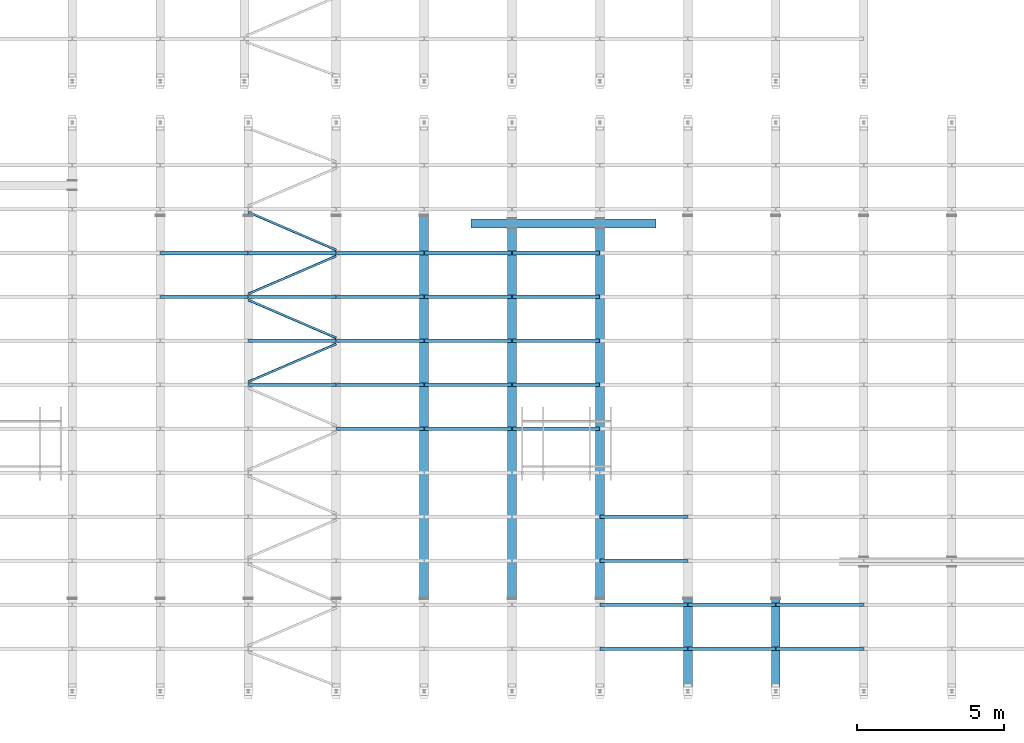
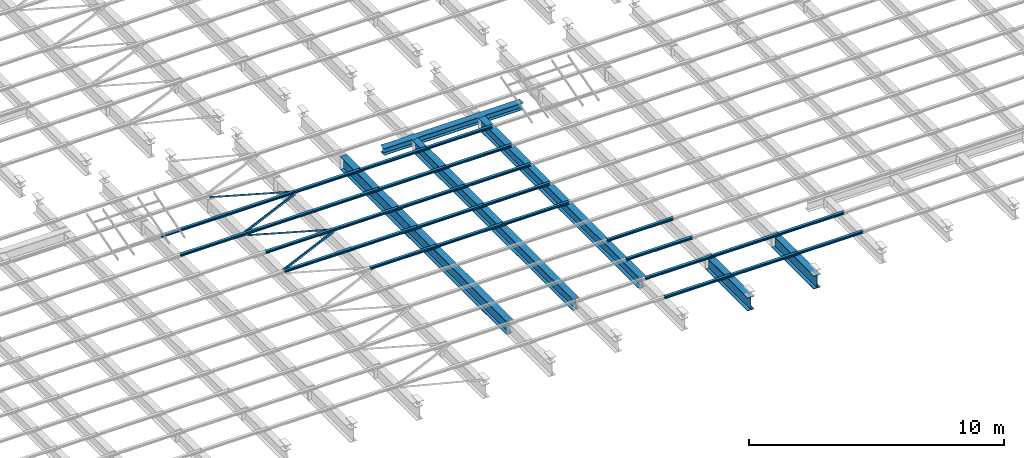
# One storey, part 45 of 139: 39 beams.
"""IFC2X3 building model written with IfcOpenShell, lengths in metres."""

from ifc_helpers import new_model, entity, si_unit, converted_unit, derived_unit, frame, origin, place, context, subcontext, project, spatial, polyline, outline, extrude, material, element, save


model = new_model("IFC2X3")

# Units and contexts
model_context = context("Model", 3, precision=1e-05, world=origin())
body_context = subcontext(model_context, "Body", "Model", "MODEL_VIEW")
ifc_project = project(units=[si_unit("LENGTHUNIT", "METRE"), si_unit("AREAUNIT", "SQUARE_METRE"), si_unit("VOLUMEUNIT", "CUBIC_METRE"), si_unit("MASSUNIT", "GRAM", prefix="KILO"), converted_unit("PLANEANGLEUNIT", "DEGREE", entity("IfcPlaneAngleMeasure", 0.0174532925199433), si_unit("PLANEANGLEUNIT", "RADIAN"), dimensions=[0, 0, 0, 0, 0, 0, 0]), derived_unit("THERMALTRANSMITTANCEUNIT", [(si_unit("POWERUNIT", "WATT"), 1), (si_unit("THERMODYNAMICTEMPERATUREUNIT", "KELVIN"), -1), (si_unit("LENGTHUNIT", "METRE"), -2)]), derived_unit("VOLUMETRICFLOWRATEUNIT", [(si_unit("LENGTHUNIT", "METRE"), 3), (converted_unit("TIMEUNIT", "hour", entity("IfcTimeMeasure", 3600.0), si_unit("TIMEUNIT", "SECOND"), dimensions=[0, 0, 1, 0, 0, 0, 0]), -1), (si_unit("LENGTHUNIT", "METRE"), -1)])], contexts=[model_context])

# Site, building, storey
site_placement = place(None, origin())
site = spatial("IfcSite", under=ifc_project, at=site_placement, Name="TWP_Speiseverteilzentrum SBW VZ II", CompositionType="ELEMENT")
building_placement = place(site_placement, origin())
building = spatial("IfcBuilding", under=site, at=building_placement, Name="Speiseverteilzentrum SBW VZ II", CompositionType="ELEMENT")
storey_placement = place(building_placement, frame((0.0, 0.0, 7.1307)))
storey = spatial("IfcBuildingStorey", under=building, at=storey_placement, Name="Wartung_FFB", CompositionType="ELEMENT", Elevation=7.1307)

# Beams
ifc_material_1 = material(Name="S235")
beam_1_placement = place(storey_placement, frame((53.6545815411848, 26.649939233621, -0.355), z_axis=(0.0, 0.0, 1.0), x_axis=(-1.22464679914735e-16, -1.0, 0.0)))
element("IfcBeam", 1, at=beam_1_placement, inside=storey, material=ifc_material_1, Name="Stahlträger", context=body_context, shape_type="SweptSolid", body=[
    extrude(outline(polyline([(-0.15, 0.165), (-0.15, 0.1485), (-0.00474999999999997, 0.1485), (-0.00474999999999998, -0.1485), (-0.15, -0.1485), (-0.15, -0.165), (0.15, -0.165), (0.15, -0.1485), (0.00475000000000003, -0.1485), (0.00475000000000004, 0.1485), (0.15, 0.1485), (0.15, 0.165), (-0.15, 0.165)])), frame((0.0, 0.0, 0.0), z_axis=(0.0, 1.0, 0.0), x_axis=(-1.0, 0.0, 0.0)), (0.0, 0.0, 1.0), 6.29994208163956),
])
ifc_material_2 = material(Name="S235")
beam_2_placement = place(storey_placement, frame((52.0500000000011, 26.9020742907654, -0.51), z_axis=(0.0, 0.0, 1.0), x_axis=(-1.0, 0.0, 0.0)))
element("IfcBeam", 2, at=beam_2_placement, inside=storey, material=ifc_material_2, Name="Stahlträger", context=body_context, shape_type="SweptSolid", body=[
    extrude(outline(polyline([(-0.15, 0.32), (-0.15, 0.294), (-0.00675000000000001, 0.294), (-0.00675000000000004, -0.294), (-0.15, -0.294), (-0.15, -0.32), (0.15, -0.32), (0.15, -0.294), (0.00674999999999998, -0.294), (0.00675000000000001, 0.294), (0.15, 0.294), (0.15, 0.32), (-0.15, 0.32)])), frame((0.0, 0.0, 0.0), z_axis=(0.0, 1.0, 0.0), x_axis=(-1.0, 0.0, 0.0)), (0.0, 0.0, 1.0), 13.014),
])
ifc_material_3 = material(Name="S235")
beam_3_placement = place(storey_placement, frame((58.0500000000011, 26.474939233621, -0.46), z_axis=(0.0, 0.0, 1.0), x_axis=(-1.0, 0.0, 0.0)))
element("IfcBeam", 3, at=beam_3_placement, inside=storey, material=ifc_material_3, Name="Stahlträger", context=body_context, shape_type="SweptSolid", body=[
    extrude(outline(polyline([(-0.15, 0.27), (-0.15, 0.246), (-0.0062499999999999, 0.246), (-0.00624999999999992, -0.246), (-0.15, -0.246), (-0.15, -0.27), (0.15, -0.27), (0.15, -0.246), (0.00625000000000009, -0.246), (0.00625000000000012, 0.246), (0.15, 0.246), (0.15, 0.27), (-0.15, 0.27)])), frame((0.0, 0.0, 0.0), z_axis=(0.0, 1.0, 0.0), x_axis=(-1.0, 0.0, 0.0)), (0.0, 0.0, 1.0), 12.5868649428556),
])
ifc_material_4 = material(Name="S235")
beam_4_placement = place(storey_placement, frame((55.0500000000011, 26.474939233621, -0.46), z_axis=(0.0, 0.0, 1.0), x_axis=(-1.0, 0.0, 0.0)))
element("IfcBeam", 4, at=beam_4_placement, inside=storey, material=ifc_material_4, Name="Stahlträger", context=body_context, shape_type="SweptSolid", body=[
    extrude(outline(polyline([(-0.15, 0.27), (-0.15, 0.246), (-0.0062499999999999, 0.246), (-0.00624999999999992, -0.246), (-0.15, -0.246), (-0.15, -0.27), (0.15, -0.27), (0.15, -0.246), (0.00625000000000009, -0.246), (0.00625000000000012, 0.246), (0.15, 0.246), (0.15, 0.27), (-0.15, 0.27)])), frame((0.0, 0.0, 0.0), z_axis=(0.0, 1.0, 0.0), x_axis=(-1.0, 0.0, 0.0)), (0.0, 0.0, 1.0), 12.5868649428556),
])
ifc_material_5 = material(Name="S235")
beam_5_placement = place(storey_placement, frame((61.0500000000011, 13.8380742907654, -0.51), z_axis=(0.0, 0.0, 1.0), x_axis=(-1.0, 0.0, 0.0)))
element("IfcBeam", 5, at=beam_5_placement, inside=storey, material=ifc_material_5, Name="Stahlträger", context=body_context, shape_type="SweptSolid", body=[
    extrude(outline(polyline([(-0.15, 0.32), (-0.15, 0.294), (-0.00675000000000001, 0.294), (-0.00675000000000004, -0.294), (-0.15, -0.294), (-0.15, -0.32), (0.15, -0.32), (0.15, -0.294), (0.00674999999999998, -0.294), (0.00675000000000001, 0.294), (0.15, 0.294), (0.15, 0.32), (-0.15, 0.32)])), frame((0.0, 0.0, 0.0), z_axis=(0.0, 1.0, 0.0), x_axis=(-1.0, 0.0, 0.0)), (0.0, 0.0, 1.0), 3.29792570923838),
])
ifc_material_6 = material(Name="S235")
beam_6_placement = place(storey_placement, frame((64.0500000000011, 13.8380742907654, -0.51), z_axis=(0.0, 0.0, 1.0), x_axis=(-1.0, 0.0, 0.0)))
element("IfcBeam", 6, at=beam_6_placement, inside=storey, material=ifc_material_6, Name="Stahlträger", context=body_context, shape_type="SweptSolid", body=[
    extrude(outline(polyline([(-0.15, 0.32), (-0.15, 0.294), (-0.00675000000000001, 0.294), (-0.00675000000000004, -0.294), (-0.15, -0.294), (-0.15, -0.32), (0.15, -0.32), (0.15, -0.294), (0.00674999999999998, -0.294), (0.00675000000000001, 0.294), (0.15, 0.294), (0.15, 0.32), (-0.15, 0.32)])), frame((0.0, 0.0, 0.0), z_axis=(0.0, 1.0, 0.0), x_axis=(-1.0, 0.0, 0.0)), (0.0, 0.0, 1.0), 3.29792570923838),
])
ifc_material_7 = material(Name="S235")
beam_7_placement = place(storey_placement, frame((43.0600000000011, 25.6450742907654, -0.133), z_axis=(0.0, 0.0, 1.0), x_axis=(0.0, -1.0, 0.0)))
element("IfcBeam", 7, at=beam_7_placement, inside=storey, material=ifc_material_7, Name="Nebenträger", context=body_context, shape_type="SweptSolid", body=[
    extrude(outline(polyline([(-0.06, 0.0570000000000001), (-0.06, 0.0490000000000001), (-0.00249999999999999, 0.0490000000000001), (-0.0025, -0.0489999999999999), (-0.06, -0.0489999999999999), (-0.06, -0.0569999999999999), (0.06, -0.0569999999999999), (0.06, -0.0489999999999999), (0.0025, -0.0489999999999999), (0.00250000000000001, 0.0490000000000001), (0.06, 0.0490000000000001), (0.06, 0.0570000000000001), (-0.06, 0.0570000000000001)])), frame((0.0, 0.0, 0.0), z_axis=(0.0, 1.0, 0.0), x_axis=(-1.0, 0.0, 0.0)), (0.0, 0.0, 1.0), 2.98),
])
ifc_material_8 = material(Name="S235")
beam_8_placement = place(storey_placement, frame((46.0600000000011, 25.6450742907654, -0.133), z_axis=(0.0, 0.0, 1.0), x_axis=(0.0, -1.0, 0.0)))
element("IfcBeam", 8, at=beam_8_placement, inside=storey, material=ifc_material_8, Name="Nebenträger", context=body_context, shape_type="SweptSolid", body=[
    extrude(outline(polyline([(-0.06, 0.0570000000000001), (-0.06, 0.0490000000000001), (-0.00249999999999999, 0.0490000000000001), (-0.0025, -0.0489999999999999), (-0.06, -0.0489999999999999), (-0.06, -0.0569999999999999), (0.06, -0.0569999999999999), (0.06, -0.0489999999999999), (0.0025, -0.0489999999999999), (0.00250000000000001, 0.0490000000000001), (0.06, 0.0490000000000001), (0.06, 0.0570000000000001), (-0.06, 0.0570000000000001)])), frame((0.0, 0.0, 0.0), z_axis=(0.0, 1.0, 0.0), x_axis=(-1.0, 0.0, 0.0)), (0.0, 0.0, 1.0), 2.98),
])
ifc_material_9 = material(Name="S235")
beam_9_placement = place(storey_placement, frame((49.0600000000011, 25.6450742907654, -0.133), z_axis=(0.0, 0.0, 1.0), x_axis=(0.0, -1.0, 0.0)))
element("IfcBeam", 9, at=beam_9_placement, inside=storey, material=ifc_material_9, Name="Nebenträger", context=body_context, shape_type="SweptSolid", body=[
    extrude(outline(polyline([(-0.06, 0.0570000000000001), (-0.06, 0.0490000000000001), (-0.00249999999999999, 0.0490000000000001), (-0.0025, -0.0489999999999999), (-0.06, -0.0489999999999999), (-0.06, -0.0569999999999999), (0.06, -0.0569999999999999), (0.06, -0.0489999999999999), (0.0025, -0.0489999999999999), (0.00250000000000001, 0.0490000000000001), (0.06, 0.0490000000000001), (0.06, 0.0570000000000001), (-0.06, 0.0570000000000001)])), frame((0.0, 0.0, 0.0), z_axis=(0.0, 1.0, 0.0), x_axis=(-1.0, 0.0, 0.0)), (0.0, 0.0, 1.0), 2.98),
])
ifc_material_10 = material(Name="S235")
beam_10_placement = place(storey_placement, frame((52.0600000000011, 25.6450742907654, -0.133), z_axis=(0.0, 0.0, 1.0), x_axis=(0.0, -1.0, 0.0)))
element("IfcBeam", 10, at=beam_10_placement, inside=storey, material=ifc_material_10, Name="Nebenträger", context=body_context, shape_type="SweptSolid", body=[
    extrude(outline(polyline([(-0.06, 0.0570000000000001), (-0.06, 0.0490000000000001), (-0.00249999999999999, 0.0490000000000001), (-0.0025, -0.0489999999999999), (-0.06, -0.0489999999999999), (-0.06, -0.0569999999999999), (0.06, -0.0569999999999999), (0.06, -0.0489999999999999), (0.0025, -0.0489999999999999), (0.00250000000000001, 0.0490000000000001), (0.06, 0.0490000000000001), (0.06, 0.0570000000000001), (-0.06, 0.0570000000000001)])), frame((0.0, 0.0, 0.0), z_axis=(0.0, 1.0, 0.0), x_axis=(-1.0, 0.0, 0.0)), (0.0, 0.0, 1.0), 2.98),
])
ifc_material_11 = material(Name="S235")
beam_11_placement = place(storey_placement, frame((55.0600000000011, 25.6450742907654, -0.133), z_axis=(0.0, 0.0, 1.0), x_axis=(0.0, -1.0, 0.0)))
element("IfcBeam", 11, at=beam_11_placement, inside=storey, material=ifc_material_11, Name="Nebenträger", context=body_context, shape_type="SweptSolid", body=[
    extrude(outline(polyline([(-0.06, 0.0570000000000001), (-0.06, 0.0490000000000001), (-0.00249999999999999, 0.0490000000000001), (-0.0025, -0.0489999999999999), (-0.06, -0.0489999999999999), (-0.06, -0.0569999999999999), (0.06, -0.0569999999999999), (0.06, -0.0489999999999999), (0.0025, -0.0489999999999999), (0.00250000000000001, 0.0490000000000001), (0.06, 0.0490000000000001), (0.06, 0.0570000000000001), (-0.06, 0.0570000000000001)])), frame((0.0, 0.0, 0.0), z_axis=(0.0, 1.0, 0.0), x_axis=(-1.0, 0.0, 0.0)), (0.0, 0.0, 1.0), 2.98),
])
ifc_material_12 = material(Name="S235")
beam_12_placement = place(storey_placement, frame((43.0600000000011, 24.1450742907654, -0.133), z_axis=(0.0, 0.0, 1.0), x_axis=(0.0, -1.0, 0.0)))
element("IfcBeam", 12, at=beam_12_placement, inside=storey, material=ifc_material_12, Name="Nebenträger", context=body_context, shape_type="SweptSolid", body=[
    extrude(outline(polyline([(-0.06, 0.0570000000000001), (-0.06, 0.0490000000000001), (-0.00249999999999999, 0.0490000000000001), (-0.0025, -0.0489999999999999), (-0.06, -0.0489999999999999), (-0.06, -0.0569999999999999), (0.06, -0.0569999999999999), (0.06, -0.0489999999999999), (0.0025, -0.0489999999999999), (0.00250000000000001, 0.0490000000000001), (0.06, 0.0490000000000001), (0.06, 0.0570000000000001), (-0.06, 0.0570000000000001)])), frame((0.0, 0.0, 0.0), z_axis=(0.0, 1.0, 0.0), x_axis=(-1.0, 0.0, 0.0)), (0.0, 0.0, 1.0), 2.98),
])
ifc_material_13 = material(Name="S235")
beam_13_placement = place(storey_placement, frame((46.0600000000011, 24.1450742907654, -0.133), z_axis=(0.0, 0.0, 1.0), x_axis=(0.0, -1.0, 0.0)))
element("IfcBeam", 13, at=beam_13_placement, inside=storey, material=ifc_material_13, Name="Nebenträger", context=body_context, shape_type="SweptSolid", body=[
    extrude(outline(polyline([(-0.06, 0.0570000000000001), (-0.06, 0.0490000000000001), (-0.00249999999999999, 0.0490000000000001), (-0.0025, -0.0489999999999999), (-0.06, -0.0489999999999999), (-0.06, -0.0569999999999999), (0.06, -0.0569999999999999), (0.06, -0.0489999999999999), (0.0025, -0.0489999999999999), (0.00250000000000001, 0.0490000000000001), (0.06, 0.0490000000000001), (0.06, 0.0570000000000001), (-0.06, 0.0570000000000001)])), frame((0.0, 0.0, 0.0), z_axis=(0.0, 1.0, 0.0), x_axis=(-1.0, 0.0, 0.0)), (0.0, 0.0, 1.0), 2.98),
])
ifc_material_14 = material(Name="S235")
beam_14_placement = place(storey_placement, frame((49.0600000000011, 24.1450742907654, -0.133), z_axis=(0.0, 0.0, 1.0), x_axis=(0.0, -1.0, 0.0)))
element("IfcBeam", 14, at=beam_14_placement, inside=storey, material=ifc_material_14, Name="Nebenträger", context=body_context, shape_type="SweptSolid", body=[
    extrude(outline(polyline([(-0.06, 0.0570000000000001), (-0.06, 0.0490000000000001), (-0.00249999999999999, 0.0490000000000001), (-0.0025, -0.0489999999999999), (-0.06, -0.0489999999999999), (-0.06, -0.0569999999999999), (0.06, -0.0569999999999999), (0.06, -0.0489999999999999), (0.0025, -0.0489999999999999), (0.00250000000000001, 0.0490000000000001), (0.06, 0.0490000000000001), (0.06, 0.0570000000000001), (-0.06, 0.0570000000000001)])), frame((0.0, 0.0, 0.0), z_axis=(0.0, 1.0, 0.0), x_axis=(-1.0, 0.0, 0.0)), (0.0, 0.0, 1.0), 2.98),
])
ifc_material_15 = material(Name="S235")
beam_15_placement = place(storey_placement, frame((52.0600000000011, 24.1450742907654, -0.133), z_axis=(0.0, 0.0, 1.0), x_axis=(0.0, -1.0, 0.0)))
element("IfcBeam", 15, at=beam_15_placement, inside=storey, material=ifc_material_15, Name="Nebenträger", context=body_context, shape_type="SweptSolid", body=[
    extrude(outline(polyline([(-0.06, 0.0570000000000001), (-0.06, 0.0490000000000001), (-0.00249999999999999, 0.0490000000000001), (-0.0025, -0.0489999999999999), (-0.06, -0.0489999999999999), (-0.06, -0.0569999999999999), (0.06, -0.0569999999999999), (0.06, -0.0489999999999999), (0.0025, -0.0489999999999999), (0.00250000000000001, 0.0490000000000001), (0.06, 0.0490000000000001), (0.06, 0.0570000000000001), (-0.06, 0.0570000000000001)])), frame((0.0, 0.0, 0.0), z_axis=(0.0, 1.0, 0.0), x_axis=(-1.0, 0.0, 0.0)), (0.0, 0.0, 1.0), 2.98),
])
ifc_material_16 = material(Name="S235")
beam_16_placement = place(storey_placement, frame((55.0600000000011, 24.1450742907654, -0.133), z_axis=(0.0, 0.0, 1.0), x_axis=(0.0, -1.0, 0.0)))
element("IfcBeam", 16, at=beam_16_placement, inside=storey, material=ifc_material_16, Name="Nebenträger", context=body_context, shape_type="SweptSolid", body=[
    extrude(outline(polyline([(-0.06, 0.0570000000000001), (-0.06, 0.0490000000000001), (-0.00249999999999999, 0.0490000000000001), (-0.0025, -0.0489999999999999), (-0.06, -0.0489999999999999), (-0.06, -0.0569999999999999), (0.06, -0.0569999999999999), (0.06, -0.0489999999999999), (0.0025, -0.0489999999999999), (0.00250000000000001, 0.0490000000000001), (0.06, 0.0490000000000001), (0.06, 0.0570000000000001), (-0.06, 0.0570000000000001)])), frame((0.0, 0.0, 0.0), z_axis=(0.0, 1.0, 0.0), x_axis=(-1.0, 0.0, 0.0)), (0.0, 0.0, 1.0), 2.98),
])
ifc_material_17 = material(Name="S235")
beam_17_placement = place(storey_placement, frame((46.0600000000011, 22.6450742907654, -0.133), z_axis=(0.0, 0.0, 1.0), x_axis=(0.0, -1.0, 0.0)))
element("IfcBeam", 17, at=beam_17_placement, inside=storey, material=ifc_material_17, Name="Nebenträger", context=body_context, shape_type="SweptSolid", body=[
    extrude(outline(polyline([(-0.06, 0.0570000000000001), (-0.06, 0.0490000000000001), (-0.00249999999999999, 0.0490000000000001), (-0.0025, -0.0489999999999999), (-0.06, -0.0489999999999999), (-0.06, -0.0569999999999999), (0.06, -0.0569999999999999), (0.06, -0.0489999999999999), (0.0025, -0.0489999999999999), (0.00250000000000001, 0.0490000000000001), (0.06, 0.0490000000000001), (0.06, 0.0570000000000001), (-0.06, 0.0570000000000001)])), frame((0.0, 0.0, 0.0), z_axis=(0.0, 1.0, 0.0), x_axis=(-1.0, 0.0, 0.0)), (0.0, 0.0, 1.0), 2.98),
])
ifc_material_18 = material(Name="S235")
beam_18_placement = place(storey_placement, frame((49.0600000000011, 22.6450742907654, -0.133), z_axis=(0.0, 0.0, 1.0), x_axis=(0.0, -1.0, 0.0)))
element("IfcBeam", 18, at=beam_18_placement, inside=storey, material=ifc_material_18, Name="Nebenträger", context=body_context, shape_type="SweptSolid", body=[
    extrude(outline(polyline([(-0.06, 0.0570000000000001), (-0.06, 0.0490000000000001), (-0.00249999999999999, 0.0490000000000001), (-0.0025, -0.0489999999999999), (-0.06, -0.0489999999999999), (-0.06, -0.0569999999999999), (0.06, -0.0569999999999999), (0.06, -0.0489999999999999), (0.0025, -0.0489999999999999), (0.00250000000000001, 0.0490000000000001), (0.06, 0.0490000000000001), (0.06, 0.0570000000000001), (-0.06, 0.0570000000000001)])), frame((0.0, 0.0, 0.0), z_axis=(0.0, 1.0, 0.0), x_axis=(-1.0, 0.0, 0.0)), (0.0, 0.0, 1.0), 2.98),
])
ifc_material_19 = material(Name="S235")
beam_19_placement = place(storey_placement, frame((52.0600000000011, 22.6450742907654, -0.133), z_axis=(0.0, 0.0, 1.0), x_axis=(0.0, -1.0, 0.0)))
element("IfcBeam", 19, at=beam_19_placement, inside=storey, material=ifc_material_19, Name="Nebenträger", context=body_context, shape_type="SweptSolid", body=[
    extrude(outline(polyline([(-0.06, 0.0570000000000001), (-0.06, 0.0490000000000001), (-0.00249999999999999, 0.0490000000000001), (-0.0025, -0.0489999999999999), (-0.06, -0.0489999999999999), (-0.06, -0.0569999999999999), (0.06, -0.0569999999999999), (0.06, -0.0489999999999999), (0.0025, -0.0489999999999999), (0.00250000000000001, 0.0490000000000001), (0.06, 0.0490000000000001), (0.06, 0.0570000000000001), (-0.06, 0.0570000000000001)])), frame((0.0, 0.0, 0.0), z_axis=(0.0, 1.0, 0.0), x_axis=(-1.0, 0.0, 0.0)), (0.0, 0.0, 1.0), 2.98),
])
ifc_material_20 = material(Name="S235")
beam_20_placement = place(storey_placement, frame((55.0600000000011, 22.6450742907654, -0.133), z_axis=(0.0, 0.0, 1.0), x_axis=(0.0, -1.0, 0.0)))
element("IfcBeam", 20, at=beam_20_placement, inside=storey, material=ifc_material_20, Name="Nebenträger", context=body_context, shape_type="SweptSolid", body=[
    extrude(outline(polyline([(-0.06, 0.0570000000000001), (-0.06, 0.0490000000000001), (-0.00249999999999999, 0.0490000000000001), (-0.0025, -0.0489999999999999), (-0.06, -0.0489999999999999), (-0.06, -0.0569999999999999), (0.06, -0.0569999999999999), (0.06, -0.0489999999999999), (0.0025, -0.0489999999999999), (0.00250000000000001, 0.0490000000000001), (0.06, 0.0490000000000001), (0.06, 0.0570000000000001), (-0.06, 0.0570000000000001)])), frame((0.0, 0.0, 0.0), z_axis=(0.0, 1.0, 0.0), x_axis=(-1.0, 0.0, 0.0)), (0.0, 0.0, 1.0), 2.98),
])
ifc_material_21 = material(Name="S235")
beam_21_placement = place(storey_placement, frame((46.0600000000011, 21.1450742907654, -0.133), z_axis=(0.0, 0.0, 1.0), x_axis=(0.0, -1.0, 0.0)))
element("IfcBeam", 21, at=beam_21_placement, inside=storey, material=ifc_material_21, Name="Nebenträger", context=body_context, shape_type="SweptSolid", body=[
    extrude(outline(polyline([(-0.06, 0.0570000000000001), (-0.06, 0.0490000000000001), (-0.00249999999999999, 0.0490000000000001), (-0.0025, -0.0489999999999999), (-0.06, -0.0489999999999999), (-0.06, -0.0569999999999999), (0.06, -0.0569999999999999), (0.06, -0.0489999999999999), (0.0025, -0.0489999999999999), (0.00250000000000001, 0.0490000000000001), (0.06, 0.0490000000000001), (0.06, 0.0570000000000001), (-0.06, 0.0570000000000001)])), frame((0.0, 0.0, 0.0), z_axis=(0.0, 1.0, 0.0), x_axis=(-1.0, 0.0, 0.0)), (0.0, 0.0, 1.0), 2.98),
])
ifc_material_22 = material(Name="S235")
beam_22_placement = place(storey_placement, frame((49.0600000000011, 21.1450742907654, -0.133), z_axis=(0.0, 0.0, 1.0), x_axis=(0.0, -1.0, 0.0)))
element("IfcBeam", 22, at=beam_22_placement, inside=storey, material=ifc_material_22, Name="Nebenträger", context=body_context, shape_type="SweptSolid", body=[
    extrude(outline(polyline([(-0.06, 0.0570000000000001), (-0.06, 0.0490000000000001), (-0.00249999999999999, 0.0490000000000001), (-0.0025, -0.0489999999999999), (-0.06, -0.0489999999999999), (-0.06, -0.0569999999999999), (0.06, -0.0569999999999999), (0.06, -0.0489999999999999), (0.0025, -0.0489999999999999), (0.00250000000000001, 0.0490000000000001), (0.06, 0.0490000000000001), (0.06, 0.0570000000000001), (-0.06, 0.0570000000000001)])), frame((0.0, 0.0, 0.0), z_axis=(0.0, 1.0, 0.0), x_axis=(-1.0, 0.0, 0.0)), (0.0, 0.0, 1.0), 2.98),
])
ifc_material_23 = material(Name="S235")
beam_23_placement = place(storey_placement, frame((52.0600000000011, 21.1450742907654, -0.133), z_axis=(0.0, 0.0, 1.0), x_axis=(0.0, -1.0, 0.0)))
element("IfcBeam", 23, at=beam_23_placement, inside=storey, material=ifc_material_23, Name="Nebenträger", context=body_context, shape_type="SweptSolid", body=[
    extrude(outline(polyline([(-0.06, 0.0570000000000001), (-0.06, 0.0490000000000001), (-0.00249999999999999, 0.0490000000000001), (-0.0025, -0.0489999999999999), (-0.06, -0.0489999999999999), (-0.06, -0.0569999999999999), (0.06, -0.0569999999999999), (0.06, -0.0489999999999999), (0.0025, -0.0489999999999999), (0.00250000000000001, 0.0490000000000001), (0.06, 0.0490000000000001), (0.06, 0.0570000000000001), (-0.06, 0.0570000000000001)])), frame((0.0, 0.0, 0.0), z_axis=(0.0, 1.0, 0.0), x_axis=(-1.0, 0.0, 0.0)), (0.0, 0.0, 1.0), 2.98),
])
ifc_material_24 = material(Name="S235")
beam_24_placement = place(storey_placement, frame((55.0600000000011, 21.1450742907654, -0.133), z_axis=(0.0, 0.0, 1.0), x_axis=(0.0, -1.0, 0.0)))
element("IfcBeam", 24, at=beam_24_placement, inside=storey, material=ifc_material_24, Name="Nebenträger", context=body_context, shape_type="SweptSolid", body=[
    extrude(outline(polyline([(-0.06, 0.0570000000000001), (-0.06, 0.0490000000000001), (-0.00249999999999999, 0.0490000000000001), (-0.0025, -0.0489999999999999), (-0.06, -0.0489999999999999), (-0.06, -0.0569999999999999), (0.06, -0.0569999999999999), (0.06, -0.0489999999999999), (0.0025, -0.0489999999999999), (0.00250000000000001, 0.0490000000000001), (0.06, 0.0490000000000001), (0.06, 0.0570000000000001), (-0.06, 0.0570000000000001)])), frame((0.0, 0.0, 0.0), z_axis=(0.0, 1.0, 0.0), x_axis=(-1.0, 0.0, 0.0)), (0.0, 0.0, 1.0), 2.98),
])
ifc_material_25 = material(Name="S235")
beam_25_placement = place(storey_placement, frame((49.0600000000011, 19.6450742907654, -0.133), z_axis=(0.0, 0.0, 1.0), x_axis=(0.0, -1.0, 0.0)))
element("IfcBeam", 25, at=beam_25_placement, inside=storey, material=ifc_material_25, Name="Nebenträger", context=body_context, shape_type="SweptSolid", body=[
    extrude(outline(polyline([(-0.06, 0.0570000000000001), (-0.06, 0.0490000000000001), (-0.00249999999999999, 0.0490000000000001), (-0.0025, -0.0489999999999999), (-0.06, -0.0489999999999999), (-0.06, -0.0569999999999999), (0.06, -0.0569999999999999), (0.06, -0.0489999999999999), (0.0025, -0.0489999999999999), (0.00250000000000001, 0.0490000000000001), (0.06, 0.0490000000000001), (0.06, 0.0570000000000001), (-0.06, 0.0570000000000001)])), frame((0.0, 0.0, 0.0), z_axis=(0.0, 1.0, 0.0), x_axis=(-1.0, 0.0, 0.0)), (0.0, 0.0, 1.0), 2.98),
])
ifc_material_26 = material(Name="S235")
beam_26_placement = place(storey_placement, frame((52.0600000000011, 19.6450742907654, -0.133), z_axis=(0.0, 0.0, 1.0), x_axis=(0.0, -1.0, 0.0)))
element("IfcBeam", 26, at=beam_26_placement, inside=storey, material=ifc_material_26, Name="Nebenträger", context=body_context, shape_type="SweptSolid", body=[
    extrude(outline(polyline([(-0.06, 0.0570000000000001), (-0.06, 0.0490000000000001), (-0.00249999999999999, 0.0490000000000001), (-0.0025, -0.0489999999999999), (-0.06, -0.0489999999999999), (-0.06, -0.0569999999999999), (0.06, -0.0569999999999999), (0.06, -0.0489999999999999), (0.0025, -0.0489999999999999), (0.00250000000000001, 0.0490000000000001), (0.06, 0.0490000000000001), (0.06, 0.0570000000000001), (-0.06, 0.0570000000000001)])), frame((0.0, 0.0, 0.0), z_axis=(0.0, 1.0, 0.0), x_axis=(-1.0, 0.0, 0.0)), (0.0, 0.0, 1.0), 2.98),
])
ifc_material_27 = material(Name="S235")
beam_27_placement = place(storey_placement, frame((55.0600000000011, 19.6450742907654, -0.133), z_axis=(0.0, 0.0, 1.0), x_axis=(0.0, -1.0, 0.0)))
element("IfcBeam", 27, at=beam_27_placement, inside=storey, material=ifc_material_27, Name="Nebenträger", context=body_context, shape_type="SweptSolid", body=[
    extrude(outline(polyline([(-0.06, 0.0570000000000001), (-0.06, 0.0490000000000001), (-0.00249999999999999, 0.0490000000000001), (-0.0025, -0.0489999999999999), (-0.06, -0.0489999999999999), (-0.06, -0.0569999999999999), (0.06, -0.0569999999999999), (0.06, -0.0489999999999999), (0.0025, -0.0489999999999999), (0.00250000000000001, 0.0490000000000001), (0.06, 0.0490000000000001), (0.06, 0.0570000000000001), (-0.06, 0.0570000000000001)])), frame((0.0, 0.0, 0.0), z_axis=(0.0, 1.0, 0.0), x_axis=(-1.0, 0.0, 0.0)), (0.0, 0.0, 1.0), 2.98),
])
ifc_material_28 = material(Name="S235")
beam_28_placement = place(storey_placement, frame((58.0600000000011, 16.6450742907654, -0.133), z_axis=(0.0, 0.0, 1.0), x_axis=(0.0, -1.0, 0.0)))
element("IfcBeam", 28, at=beam_28_placement, inside=storey, material=ifc_material_28, Name="Nebenträger", context=body_context, shape_type="SweptSolid", body=[
    extrude(outline(polyline([(-0.06, 0.0570000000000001), (-0.06, 0.0490000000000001), (-0.00249999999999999, 0.0490000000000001), (-0.0025, -0.0489999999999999), (-0.06, -0.0489999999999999), (-0.06, -0.0569999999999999), (0.06, -0.0569999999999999), (0.06, -0.0489999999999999), (0.0025, -0.0489999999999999), (0.00250000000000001, 0.0490000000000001), (0.06, 0.0490000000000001), (0.06, 0.0570000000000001), (-0.06, 0.0570000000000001)])), frame((0.0, 0.0, 0.0), z_axis=(0.0, 1.0, 0.0), x_axis=(-1.0, 0.0, 0.0)), (0.0, 0.0, 1.0), 2.98),
])
ifc_material_29 = material(Name="S235")
beam_29_placement = place(storey_placement, frame((58.0600000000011, 15.1450742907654, -0.133), z_axis=(0.0, 0.0, 1.0), x_axis=(0.0, -1.0, 0.0)))
element("IfcBeam", 29, at=beam_29_placement, inside=storey, material=ifc_material_29, Name="Nebenträger", context=body_context, shape_type="SweptSolid", body=[
    extrude(outline(polyline([(-0.06, 0.0570000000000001), (-0.06, 0.0490000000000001), (-0.00249999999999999, 0.0490000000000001), (-0.0025, -0.0489999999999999), (-0.06, -0.0489999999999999), (-0.06, -0.0569999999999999), (0.06, -0.0569999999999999), (0.06, -0.0489999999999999), (0.0025, -0.0489999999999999), (0.00250000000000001, 0.0490000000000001), (0.06, 0.0490000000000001), (0.06, 0.0570000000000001), (-0.06, 0.0570000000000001)])), frame((0.0, 0.0, 0.0), z_axis=(0.0, 1.0, 0.0), x_axis=(-1.0, 0.0, 0.0)), (0.0, 0.0, 1.0), 2.98),
])
ifc_material_30 = material(Name="S235")
beam_30_placement = place(storey_placement, frame((64.0600000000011, 13.6450742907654, -0.133), z_axis=(0.0, 0.0, 1.0), x_axis=(0.0, -1.0, 0.0)))
element("IfcBeam", 30, at=beam_30_placement, inside=storey, material=ifc_material_30, Name="Nebenträger", context=body_context, shape_type="SweptSolid", body=[
    extrude(outline(polyline([(-0.06, 0.0570000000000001), (-0.06, 0.0490000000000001), (-0.00249999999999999, 0.0490000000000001), (-0.0025, -0.0489999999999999), (-0.06, -0.0489999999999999), (-0.06, -0.0569999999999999), (0.06, -0.0569999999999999), (0.06, -0.0489999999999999), (0.0025, -0.0489999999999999), (0.00250000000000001, 0.0490000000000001), (0.06, 0.0490000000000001), (0.06, 0.0570000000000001), (-0.06, 0.0570000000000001)])), frame((0.0, 0.0, 0.0), z_axis=(0.0, 1.0, 0.0), x_axis=(-1.0, 0.0, 0.0)), (0.0, 0.0, 1.0), 2.98000000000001),
])
ifc_material_31 = material(Name="S235")
beam_31_placement = place(storey_placement, frame((58.0600000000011, 13.6450742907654, -0.133), z_axis=(0.0, 0.0, 1.0), x_axis=(0.0, -1.0, 0.0)))
element("IfcBeam", 31, at=beam_31_placement, inside=storey, material=ifc_material_31, Name="Nebenträger", context=body_context, shape_type="SweptSolid", body=[
    extrude(outline(polyline([(-0.06, 0.0570000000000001), (-0.06, 0.0490000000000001), (-0.00249999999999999, 0.0490000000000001), (-0.0025, -0.0489999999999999), (-0.06, -0.0489999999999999), (-0.06, -0.0569999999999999), (0.06, -0.0569999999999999), (0.06, -0.0489999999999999), (0.0025, -0.0489999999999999), (0.00250000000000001, 0.0490000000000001), (0.06, 0.0490000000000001), (0.06, 0.0570000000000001), (-0.06, 0.0570000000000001)])), frame((0.0, 0.0, 0.0), z_axis=(0.0, 1.0, 0.0), x_axis=(-1.0, 0.0, 0.0)), (0.0, 0.0, 1.0), 2.98),
])
ifc_material_32 = material(Name="S235")
beam_32_placement = place(storey_placement, frame((61.0600000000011, 13.6450742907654, -0.133), z_axis=(0.0, 0.0, 1.0), x_axis=(0.0, -1.0, 0.0)))
element("IfcBeam", 32, at=beam_32_placement, inside=storey, material=ifc_material_32, Name="Nebenträger", context=body_context, shape_type="SweptSolid", body=[
    extrude(outline(polyline([(-0.06, 0.0570000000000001), (-0.06, 0.0490000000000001), (-0.00249999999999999, 0.0490000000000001), (-0.0025, -0.0489999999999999), (-0.06, -0.0489999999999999), (-0.06, -0.0569999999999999), (0.06, -0.0569999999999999), (0.06, -0.0489999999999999), (0.0025, -0.0489999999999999), (0.00250000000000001, 0.0490000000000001), (0.06, 0.0490000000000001), (0.06, 0.0570000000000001), (-0.06, 0.0570000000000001)])), frame((0.0, 0.0, 0.0), z_axis=(0.0, 1.0, 0.0), x_axis=(-1.0, 0.0, 0.0)), (0.0, 0.0, 1.0), 2.98),
])
ifc_material_33 = material(Name="S235")
beam_33_placement = place(storey_placement, frame((64.0600000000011, 12.1450742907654, -0.133), z_axis=(0.0, 0.0, 1.0), x_axis=(0.0, -1.0, 0.0)))
element("IfcBeam", 33, at=beam_33_placement, inside=storey, material=ifc_material_33, Name="Nebenträger", context=body_context, shape_type="SweptSolid", body=[
    extrude(outline(polyline([(-0.06, 0.0570000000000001), (-0.06, 0.0490000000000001), (-0.00249999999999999, 0.0490000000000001), (-0.0025, -0.0489999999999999), (-0.06, -0.0489999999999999), (-0.06, -0.0569999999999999), (0.06, -0.0569999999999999), (0.06, -0.0489999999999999), (0.0025, -0.0489999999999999), (0.00250000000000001, 0.0490000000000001), (0.06, 0.0490000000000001), (0.06, 0.0570000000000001), (-0.06, 0.0570000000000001)])), frame((0.0, 0.0, 0.0), z_axis=(0.0, 1.0, 0.0), x_axis=(-1.0, 0.0, 0.0)), (0.0, 0.0, 1.0), 2.98000000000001),
])
ifc_material_34 = material(Name="S235")
beam_34_placement = place(storey_placement, frame((58.0600000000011, 12.1450742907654, -0.133), z_axis=(0.0, 0.0, 1.0), x_axis=(0.0, -1.0, 0.0)))
element("IfcBeam", 34, at=beam_34_placement, inside=storey, material=ifc_material_34, Name="Nebenträger", context=body_context, shape_type="SweptSolid", body=[
    extrude(outline(polyline([(-0.06, 0.0570000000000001), (-0.06, 0.0490000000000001), (-0.00249999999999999, 0.0490000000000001), (-0.0025, -0.0489999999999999), (-0.06, -0.0489999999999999), (-0.06, -0.0569999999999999), (0.06, -0.0569999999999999), (0.06, -0.0489999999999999), (0.0025, -0.0489999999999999), (0.00250000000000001, 0.0490000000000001), (0.06, 0.0490000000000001), (0.06, 0.0570000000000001), (-0.06, 0.0570000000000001)])), frame((0.0, 0.0, 0.0), z_axis=(0.0, 1.0, 0.0), x_axis=(-1.0, 0.0, 0.0)), (0.0, 0.0, 1.0), 2.98),
])
ifc_material_35 = material(Name="S235")
beam_35_placement = place(storey_placement, frame((61.0600000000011, 12.1450742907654, -0.133), z_axis=(0.0, 0.0, 1.0), x_axis=(0.0, -1.0, 0.0)))
element("IfcBeam", 35, at=beam_35_placement, inside=storey, material=ifc_material_35, Name="Nebenträger", context=body_context, shape_type="SweptSolid", body=[
    extrude(outline(polyline([(-0.06, 0.0570000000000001), (-0.06, 0.0490000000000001), (-0.00249999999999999, 0.0490000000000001), (-0.0025, -0.0489999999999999), (-0.06, -0.0489999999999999), (-0.06, -0.0569999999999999), (0.06, -0.0569999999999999), (0.06, -0.0489999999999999), (0.0025, -0.0489999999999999), (0.00250000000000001, 0.0490000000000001), (0.06, 0.0490000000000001), (0.06, 0.0570000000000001), (-0.06, 0.0570000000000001)])), frame((0.0, 0.0, 0.0), z_axis=(0.0, 1.0, 0.0), x_axis=(-1.0, 0.0, 0.0)), (0.0, 0.0, 1.0), 2.98),
])
ifc_material_36 = material(Name="S235")
beam_36_placement = place(storey_placement, frame((46.0406913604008, 21.2634673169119, -0.167052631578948), z_axis=(0.0, 0.0, 1.0), x_axis=(0.395932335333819, -0.91827968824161, 0.0)))
element("IfcBeam", 36, at=beam_36_placement, inside=storey, material=ifc_material_36, Name="Kreuzverband", context=body_context, shape_type="SweptSolid", body=[
    extrude(outline(polyline([(0.0229473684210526, -0.0229473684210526), (0.0229473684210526, 0.0570526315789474), (0.0149473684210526, 0.0570526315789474), (0.0149473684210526, -0.0149473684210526), (-0.0570526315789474, -0.0149473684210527), (-0.0570526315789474, -0.0229473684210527), (0.0229473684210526, -0.0229473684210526)])), frame((0.0, 0.0, 0.0), z_axis=(0.0, 0.999999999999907, 0.0), x_axis=(-1.0, 0.0, 0.0)), (0.0, 0.0, 1.0), 3.27000000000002),
])
ifc_material_37 = material(Name="S235")
beam_37_placement = place(storey_placement, frame((46.0406913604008, 24.0266812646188, -0.167052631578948), z_axis=(0.0, 0.0, 1.0), x_axis=(-0.395932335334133, -0.918279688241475, 0.0)))
element("IfcBeam", 37, at=beam_37_placement, inside=storey, material=ifc_material_37, Name="Kreuzverband", context=body_context, shape_type="SweptSolid", body=[
    extrude(outline(polyline([(0.0570526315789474, -0.0229473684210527), (0.0570526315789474, -0.0149473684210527), (-0.0149473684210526, -0.0149473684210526), (-0.0149473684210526, 0.0570526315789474), (-0.0229473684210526, 0.0570526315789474), (-0.0229473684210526, -0.0229473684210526), (0.0570526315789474, -0.0229473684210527)])), frame((0.0, 0.0, 0.0), z_axis=(0.0, 1.00000000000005, 0.0), x_axis=(-1.0, 0.0, 0.0)), (0.0, 0.0, 1.0), 3.27000000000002),
])
ifc_material_38 = material(Name="S235")
beam_38_placement = place(storey_placement, frame((46.0406913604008, 24.2634673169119, -0.167052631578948), z_axis=(0.0, 0.0, 1.0), x_axis=(0.395932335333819, -0.91827968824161, 0.0)))
element("IfcBeam", 38, at=beam_38_placement, inside=storey, material=ifc_material_38, Name="Kreuzverband", context=body_context, shape_type="SweptSolid", body=[
    extrude(outline(polyline([(0.0229473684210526, -0.0229473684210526), (0.0229473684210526, 0.0570526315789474), (0.0149473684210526, 0.0570526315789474), (0.0149473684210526, -0.0149473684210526), (-0.0570526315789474, -0.0149473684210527), (-0.0570526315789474, -0.0229473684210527), (0.0229473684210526, -0.0229473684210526)])), frame((0.0, 0.0, 0.0), z_axis=(0.0, 0.999999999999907, 0.0), x_axis=(-1.0, 0.0, 0.0)), (0.0, 0.0, 1.0), 3.27000000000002),
])
ifc_material_39 = material(Name="S235")
beam_39_placement = place(storey_placement, frame((46.0406913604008, 27.0266812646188, -0.167052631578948), z_axis=(0.0, 0.0, 1.0), x_axis=(-0.395932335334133, -0.918279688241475, 0.0)))
element("IfcBeam", 39, at=beam_39_placement, inside=storey, material=ifc_material_39, Name="Kreuzverband", context=body_context, shape_type="SweptSolid", body=[
    extrude(outline(polyline([(0.0570526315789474, -0.0229473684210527), (0.0570526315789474, -0.0149473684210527), (-0.0149473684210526, -0.0149473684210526), (-0.0149473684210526, 0.0570526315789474), (-0.0229473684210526, 0.0570526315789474), (-0.0229473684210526, -0.0229473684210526), (0.0570526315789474, -0.0229473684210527)])), frame((0.0, 0.0, 0.0), z_axis=(0.0, 1.00000000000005, 0.0), x_axis=(-1.0, 0.0, 0.0)), (0.0, 0.0, 1.0), 3.27000000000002),
])

save(model, "model.ifc")
